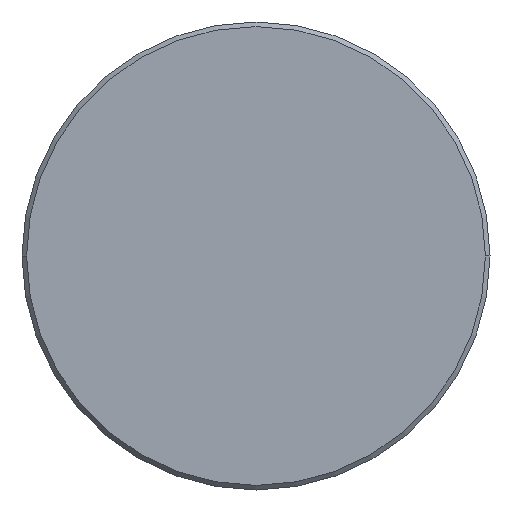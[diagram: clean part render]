
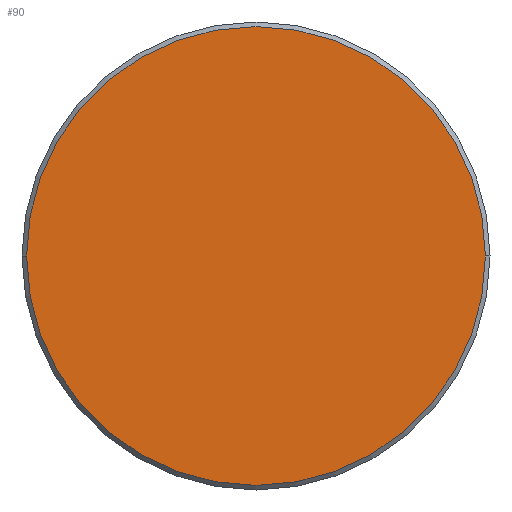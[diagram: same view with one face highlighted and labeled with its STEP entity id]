
A CAD part, left-side view. The second image highlights one B-rep face of the part: STEP entity #90.
In plain terms, the highlighted planar face has unit normal (-1, 0, 0).
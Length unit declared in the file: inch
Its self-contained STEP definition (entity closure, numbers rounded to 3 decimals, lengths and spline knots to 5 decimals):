
#3 = CIRCLE ( 'NONE', #265, 0.19912 ) ;
#17 = ORIENTED_EDGE ( 'NONE', *, *, #118, .T. ) ;
#44 = CARTESIAN_POINT ( 'NONE',  ( 0., -0.19912, 0. ) ) ;
#74 = AXIS2_PLACEMENT_3D ( 'NONE', #96, #247, #243 ) ;
#78 = FACE_OUTER_BOUND ( 'NONE', #126, .T. ) ;
#90 = ADVANCED_FACE ( 'NONE', ( #78 ), #122, .T. ) ;
#96 = CARTESIAN_POINT ( 'NONE',  ( 0., 0., 0. ) ) ;
#104 = DIRECTION ( 'NONE',  ( -1., 0., 0. ) ) ;
#115 = DIRECTION ( 'NONE',  ( 0., -1., 0. ) ) ;
#118 = EDGE_CURVE ( 'NONE', #165, #375, #3, .T. ) ;
#122 = PLANE ( 'NONE',  #74 ) ;
#126 = EDGE_LOOP ( 'NONE', ( #17, #347 ) ) ;
#165 = VERTEX_POINT ( 'NONE', #278 ) ;
#198 = DIRECTION ( 'NONE',  ( 0., -1., 0. ) ) ;
#243 = DIRECTION ( 'NONE',  ( 0., -1., 0. ) ) ;
#244 = CIRCLE ( 'NONE', #344, 0.19912 ) ;
#247 = DIRECTION ( 'NONE',  ( -1., 0., 0. ) ) ;
#253 = CARTESIAN_POINT ( 'NONE',  ( 0., 0., 0. ) ) ;
#265 = AXIS2_PLACEMENT_3D ( 'NONE', #266, #267, #115 ) ;
#266 = CARTESIAN_POINT ( 'NONE',  ( 0., 0., 0. ) ) ;
#267 = DIRECTION ( 'NONE',  ( -1., 0., 0. ) ) ;
#278 = CARTESIAN_POINT ( 'NONE',  ( 0., 0.19912, 0. ) ) ;
#344 = AXIS2_PLACEMENT_3D ( 'NONE', #253, #104, #198 ) ;
#347 = ORIENTED_EDGE ( 'NONE', *, *, #374, .T. ) ;
#374 = EDGE_CURVE ( 'NONE', #375, #165, #244, .T. ) ;
#375 = VERTEX_POINT ( 'NONE', #44 ) ;
